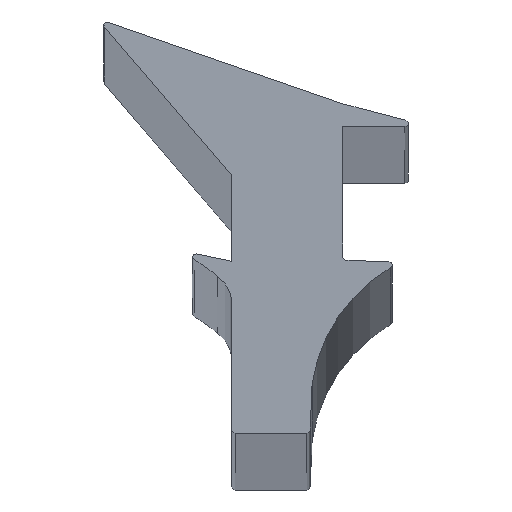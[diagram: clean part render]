
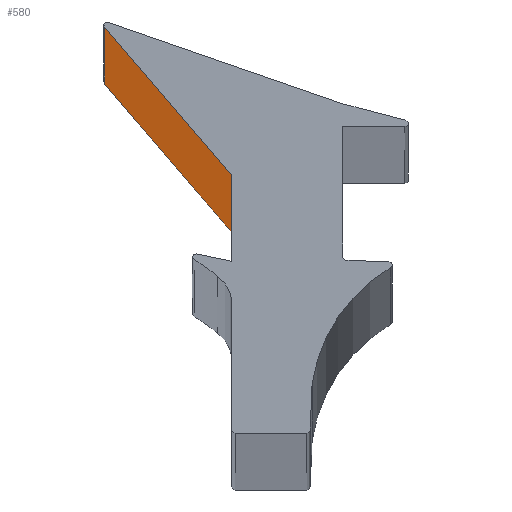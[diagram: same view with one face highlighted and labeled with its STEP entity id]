
A CAD part, top view. The second image highlights one B-rep face of the part: STEP entity #580.
In plain terms, the highlighted planar face has unit normal (-0.759, -0.651, 0).
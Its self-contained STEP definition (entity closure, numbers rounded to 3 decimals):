
#2 = ORIENTED_EDGE ( 'NONE', *, *, #389, .F. ) ;
#6 = ORIENTED_EDGE ( 'NONE', *, *, #143, .T. ) ;
#15 = CARTESIAN_POINT ( 'NONE',  ( -3.427, -1.471, 500. ) ) ;
#22 = VERTEX_POINT ( 'NONE', #230 ) ;
#34 = EDGE_CURVE ( 'NONE', #690, #738, #250, .T. ) ;
#39 = EDGE_LOOP ( 'NONE', ( #747, #2, #568, #6 ) ) ;
#54 = DIRECTION ( 'NONE',  ( 0., 0., -1. ) ) ;
#143 = EDGE_CURVE ( 'NONE', #365, #690, #623, .T. ) ;
#178 = EDGE_CURVE ( 'NONE', #365, #22, #242, .T. ) ;
#180 = CARTESIAN_POINT ( 'NONE',  ( -3.427, -1.471, -500. ) ) ;
#198 = DIRECTION ( 'NONE',  ( 0.651, -0.759, 0. ) ) ;
#213 = CARTESIAN_POINT ( 'NONE',  ( -7.301, 3.049, -500. ) ) ;
#230 = CARTESIAN_POINT ( 'NONE',  ( -3.427, -1.471, 500. ) ) ;
#239 = VECTOR ( 'NONE', #54, 1000. ) ;
#242 = LINE ( 'NONE', #492, #366 ) ;
#250 = LINE ( 'NONE', #180, #408 ) ;
#310 = DIRECTION ( 'NONE',  ( 0.651, -0.759, 0. ) ) ;
#343 = DIRECTION ( 'NONE',  ( 0., 0., -1. ) ) ;
#352 = CARTESIAN_POINT ( 'NONE',  ( -7.301, 3.049, 500. ) ) ;
#365 = VERTEX_POINT ( 'NONE', #352 ) ;
#366 = VECTOR ( 'NONE', #198, 1000. ) ;
#389 = EDGE_CURVE ( 'NONE', #22, #738, #771, .T. ) ;
#396 = DIRECTION ( 'NONE',  ( 0.759, 0.651, 0. ) ) ;
#408 = VECTOR ( 'NONE', #310, 1000. ) ;
#450 = CARTESIAN_POINT ( 'NONE',  ( -7.301, 3.049, 500. ) ) ;
#492 = CARTESIAN_POINT ( 'NONE',  ( -3.427, -1.471, 500. ) ) ;
#543 = CARTESIAN_POINT ( 'NONE',  ( -3.427, -1.471, -500. ) ) ;
#551 = FACE_OUTER_BOUND ( 'NONE', #39, .T. ) ;
#568 = ORIENTED_EDGE ( 'NONE', *, *, #178, .F. ) ;
#578 = DIRECTION ( 'NONE',  ( -0.651, 0.759, 0. ) ) ;
#580 = ADVANCED_FACE ( 'NONE', ( #551 ), #790, .F. ) ;
#623 = LINE ( 'NONE', #450, #239 ) ;
#626 = AXIS2_PLACEMENT_3D ( 'NONE', #15, #396, #578 ) ;
#690 = VERTEX_POINT ( 'NONE', #213 ) ;
#694 = VECTOR ( 'NONE', #343, 1000. ) ;
#710 = CARTESIAN_POINT ( 'NONE',  ( -3.427, -1.471, 500. ) ) ;
#738 = VERTEX_POINT ( 'NONE', #543 ) ;
#747 = ORIENTED_EDGE ( 'NONE', *, *, #34, .T. ) ;
#771 = LINE ( 'NONE', #710, #694 ) ;
#790 = PLANE ( 'NONE',  #626 ) ;
